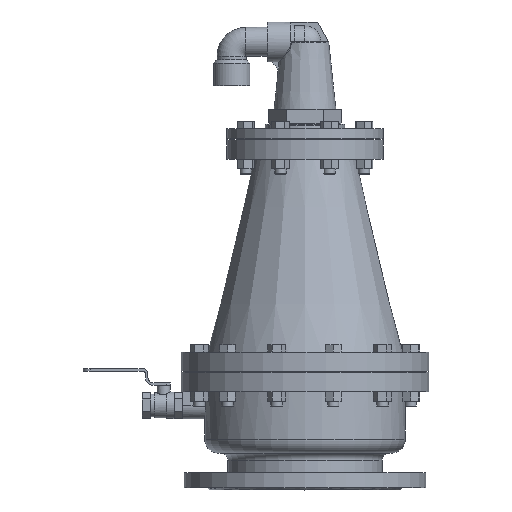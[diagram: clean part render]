
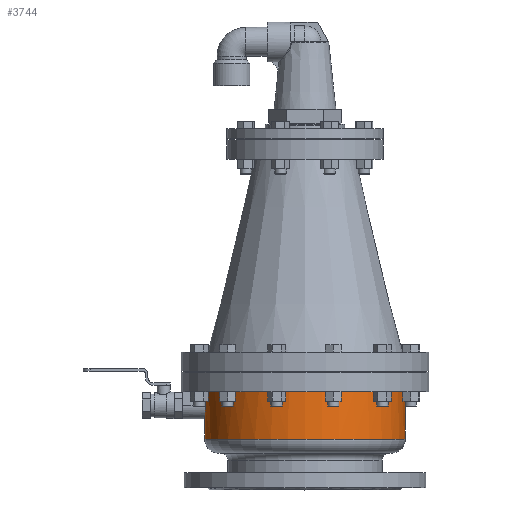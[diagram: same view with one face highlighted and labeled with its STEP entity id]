
A CAD part, left-side view. The second image highlights one B-rep face of the part: STEP entity #3744.
In plain terms, the highlighted cylindrical face has radius 141 mm (diameter 282 mm), a full revolution.
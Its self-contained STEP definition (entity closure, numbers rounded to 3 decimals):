
#3744=ADVANCED_FACE('',(#8568,#8570),#8572,.T.);
#8568=FACE_BOUND('',#8569,.T.);
#8569=EDGE_LOOP('',(#12325,#12326,#12327,#12328,#12329));
#8570=FACE_OUTER_BOUND('',#8571,.T.);
#8571=EDGE_LOOP('',(#12330));
#8572=CYLINDRICAL_SURFACE('',#8573,141.);
#8573=AXIS2_PLACEMENT_3D('',#8574,#8575,#8576);
#8574=CARTESIAN_POINT('',(0.,0.,138.));
#8575=DIRECTION('',(0.,0.,-1.));
#8576=DIRECTION('',(-1.,0.,0.));
#12325=ORIENTED_EDGE('',*,*,#14200,.T.);
#12326=ORIENTED_EDGE('',*,*,#14199,.T.);
#12327=ORIENTED_EDGE('',*,*,#14438,.F.);
#12328=ORIENTED_EDGE('',*,*,#14441,.F.);
#12329=ORIENTED_EDGE('',*,*,#14442,.F.);
#12330=ORIENTED_EDGE('',*,*,#14443,.F.);
#14199=EDGE_CURVE('',#16359,#16356,#16360,.T.);
#14200=EDGE_CURVE('',#16361,#16359,#16362,.T.);
#14438=EDGE_CURVE('',#16722,#16356,#16723,.F.);
#14441=EDGE_CURVE('',#16727,#16722,#16728,.T.);
#14442=EDGE_CURVE('',#16361,#16727,#16729,.T.);
#14443=EDGE_CURVE('',#16730,#16730,#16731,.T.);
#16356=VERTEX_POINT('',#21279);
#16359=VERTEX_POINT('',#21284);
#16360=CIRCLE('',#21285,141.);
#16361=VERTEX_POINT('',#21289);
#16362=CIRCLE('',#21290,141.);
#16722=VERTEX_POINT('',#22128);
#16723=LINE('',#22129,#22130);
#16727=VERTEX_POINT('',#22139);
#16728=B_SPLINE_CURVE_WITH_KNOTS('',3,
(#22140,#22141,#22142,#22143,#22144,#22145,#22146,#22147,#22148,#22149,#22150,#22151,
#22152,#22153,#22154,#22155,#22156,#22157,#22158,#22159,#22160,#22161,#22162,#22163,
#22164,#22165,#22166,#22167,#22168,#22169,#22170,#22171,#22172,#22173,#22174,#22175,
#22176,#22177,#22178,#22179,#22180,#22181,#22182,#22183,#22184,#22185,#22186,#22187,
#22188,#22189,#22190,#22191,#22192,#22193,#22194,#22195,#22196),
.UNSPECIFIED.,.F.,.F.,
(4,1,1,1,1,1,1,1,1,1,1,1,1,1,1,1,1,1,1,1,1,1,1,1,1,1,1,1,1,1,1,1,1,1,1,1,1,1,1,1,
1,1,1,1,1,1,1,1,1,1,1,1,1,1,4),
(0.,0.012,0.029,0.051,0.079,
0.104,0.126,0.149,0.172,0.196,
0.22,0.243,0.266,0.283,0.3,
0.315,0.331,0.351,0.375,0.403,
0.426,0.444,0.457,0.47,0.482,
0.495,0.5,0.506,0.518,0.529,
0.54,0.551,0.563,0.584,0.613,
0.643,0.667,0.682,0.697,0.711,
0.725,0.74,0.754,0.768,0.782,
0.8,0.823,0.85,0.877,0.905,
0.93,0.95,0.967,0.983,1.),
.UNSPECIFIED.);
#16729=LINE('',#22197,#22198);
#16730=VERTEX_POINT('',#22200);
#16731=CIRCLE('',#22201,141.);
#21279=CARTESIAN_POINT('',(-19.,139.714,138.));
#21284=CARTESIAN_POINT('',(-141.,0.,138.));
#21285=AXIS2_PLACEMENT_3D('',#21286,#21287,#21288);
#21286=CARTESIAN_POINT('',(0.,0.,138.));
#21287=DIRECTION('',(0.,0.,-1.));
#21288=DIRECTION('',(-1.,0.,0.));
#21289=CARTESIAN_POINT('',(19.,139.714,138.));
#21290=AXIS2_PLACEMENT_3D('',#21291,#21292,#21293);
#21291=CARTESIAN_POINT('',(0.,0.,138.));
#21292=DIRECTION('',(0.,0.,-1.));
#21293=DIRECTION('',(0.135,0.991,0.));
#22128=CARTESIAN_POINT('',(-19.,139.714,119.));
#22129=CARTESIAN_POINT('',(-19.,139.714,138.));
#22130=VECTOR('',#22131,1.);
#22131=DIRECTION('',(0.,0.,-1.));
#22139=CARTESIAN_POINT('',(19.,139.714,119.));
#22140=CARTESIAN_POINT('',(19.,139.714,119.));
#22141=CARTESIAN_POINT('',(19.,139.714,118.753));
#22142=CARTESIAN_POINT('',(18.989,139.716,118.168));
#22143=CARTESIAN_POINT('',(18.921,139.725,117.148));
#22144=CARTESIAN_POINT('',(18.753,139.747,115.825));
#22145=CARTESIAN_POINT('',(18.448,139.788,114.364));
#22146=CARTESIAN_POINT('',(18.027,139.843,112.946));
#22147=CARTESIAN_POINT('',(17.541,139.905,111.658));
#22148=CARTESIAN_POINT('',(16.978,139.975,110.433));
#22149=CARTESIAN_POINT('',(16.302,140.055,109.207));
#22150=CARTESIAN_POINT('',(15.529,140.143,108.022));
#22151=CARTESIAN_POINT('',(14.669,140.236,106.897));
#22152=CARTESIAN_POINT('',(13.738,140.33,105.851));
#22153=CARTESIAN_POINT('',(12.833,140.416,104.972));
#22154=CARTESIAN_POINT('',(11.981,140.491,104.243));
#22155=CARTESIAN_POINT('',(11.208,140.555,103.648));
#22156=CARTESIAN_POINT('',(10.422,140.615,103.104));
#22157=CARTESIAN_POINT('',(9.55,140.677,102.563));
#22158=CARTESIAN_POINT('',(8.505,140.745,101.993));
#22159=CARTESIAN_POINT('',(7.203,140.818,101.395));
#22160=CARTESIAN_POINT('',(5.806,140.883,100.888));
#22161=CARTESIAN_POINT('',(4.495,140.93,100.526));
#22162=CARTESIAN_POINT('',(3.45,140.959,100.308));
#22163=CARTESIAN_POINT('',(2.586,140.977,100.171));
#22164=CARTESIAN_POINT('',(1.82,140.989,100.082));
#22165=CARTESIAN_POINT('',(1.067,140.997,100.025));
#22166=CARTESIAN_POINT('',(0.462,141.,100.003));
#22167=CARTESIAN_POINT('',(-0.02,141.,99.999));
#22168=CARTESIAN_POINT('',(-0.485,141.,100.004));
#22169=CARTESIAN_POINT('',(-1.058,140.997,100.026));
#22170=CARTESIAN_POINT('',(-1.716,140.99,100.074));
#22171=CARTESIAN_POINT('',(-2.371,140.981,100.145));
#22172=CARTESIAN_POINT('',(-3.054,140.968,100.242));
#22173=CARTESIAN_POINT('',(-3.927,140.946,100.401));
#22174=CARTESIAN_POINT('',(-5.129,140.909,100.685));
#22175=CARTESIAN_POINT('',(-6.639,140.847,101.169));
#22176=CARTESIAN_POINT('',(-8.151,140.767,101.812));
#22177=CARTESIAN_POINT('',(-9.371,140.689,102.458));
#22178=CARTESIAN_POINT('',(-10.291,140.625,103.019));
#22179=CARTESIAN_POINT('',(-11.024,140.569,103.517));
#22180=CARTESIAN_POINT('',(-11.709,140.513,104.029));
#22181=CARTESIAN_POINT('',(-12.366,140.457,104.566));
#22182=CARTESIAN_POINT('',(-13.003,140.4,105.137));
#22183=CARTESIAN_POINT('',(-13.613,140.342,105.736));
#22184=CARTESIAN_POINT('',(-14.191,140.284,106.356));
#22185=CARTESIAN_POINT('',(-14.787,140.223,107.057));
#22186=CARTESIAN_POINT('',(-15.446,140.152,107.914));
#22187=CARTESIAN_POINT('',(-16.191,140.068,109.022));
#22188=CARTESIAN_POINT('',(-16.938,139.98,110.341));
#22189=CARTESIAN_POINT('',(-17.621,139.895,111.829));
#22190=CARTESIAN_POINT('',(-18.158,139.826,113.333));
#22191=CARTESIAN_POINT('',(-18.536,139.776,114.752));
#22192=CARTESIAN_POINT('',(-18.766,139.746,115.957));
#22193=CARTESIAN_POINT('',(-18.904,139.727,117.014));
#22194=CARTESIAN_POINT('',(-18.982,139.716,118.));
#22195=CARTESIAN_POINT('',(-19.,139.714,118.665));
#22196=CARTESIAN_POINT('',(-19.,139.714,119.));
#22197=CARTESIAN_POINT('',(19.,139.714,138.));
#22198=VECTOR('',#22199,1.);
#22199=DIRECTION('',(0.,0.,-1.));
#22200=CARTESIAN_POINT('',(-141.,0.,71.657));
#22201=AXIS2_PLACEMENT_3D('',#22202,#22203,#22204);
#22202=CARTESIAN_POINT('',(0.,0.,71.657));
#22203=DIRECTION('',(0.,0.,-1.));
#22204=DIRECTION('',(-1.,0.,0.));
